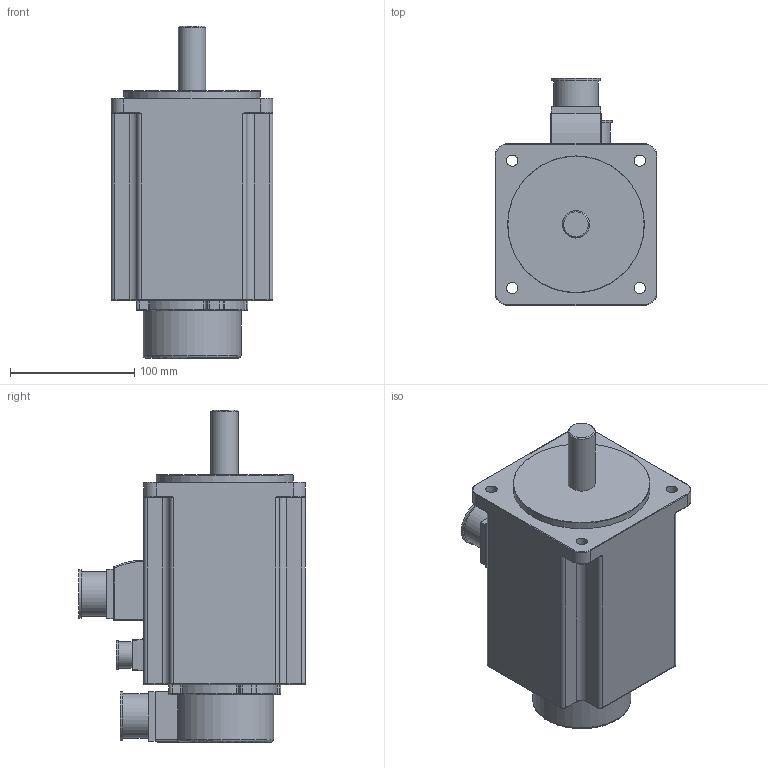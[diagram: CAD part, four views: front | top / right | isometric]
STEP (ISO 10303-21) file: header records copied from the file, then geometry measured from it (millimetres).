
FILE_DESCRIPTION(/* description */ (''),/* implementation_level */ '2;1');
FILE_NAME(/* name */ '130MSL07220- FZ.stp',/* time_stamp */ '2019-11-22T13:46:27+08:00',/* author */ (''),/* organization */ (''),/* preprocessor_version */ 'ST-DEVELOPER v16',/* originating_system */ 'SIEMENS PLM Software NX 10.0',/* authorisation */ '');
FILE_SCHEMA (('CONFIG_CONTROL_DESIGN'));
Length unit declared in the file: millimetre
Products named in the file (1): 130MSL07220- FZ
Bounding box: 130 x 182.5 x 267 mm (x, y, z)
Volume: 2951314.6 mm3; surface area: 149298.7 mm2
Topology: 1 solids, 1 shells, 283 faces, 663 edges, 375 vertices
Faces by surface type: cylinder 131, plane 67, torus 55, sphere 16, bspline 12, cone 2
Full cylindrical faces by diameter (mm): 9 x4, 21 x1, 22 x1, 23 x1, 36 x2, 39 x2, 110 x1
Entity records: 8052 total; most frequent: CARTESIAN_POINT 1557, DIRECTION 1477, ORIENTED_EDGE 1250, EDGE_CURVE 625, AXIS2_PLACEMENT_3D 602, VERTEX_POINT 369, CIRCLE 320, EDGE_LOOP 316
